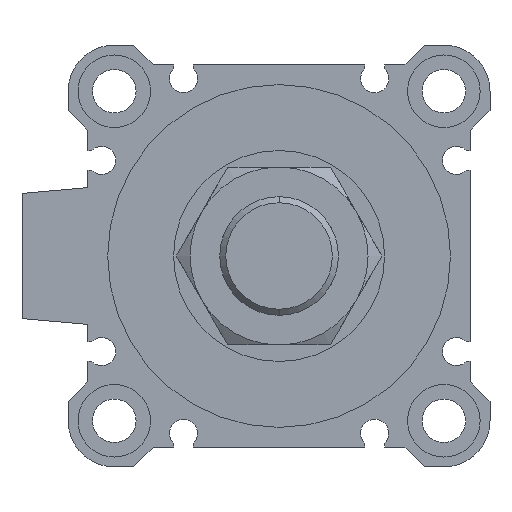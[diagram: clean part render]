
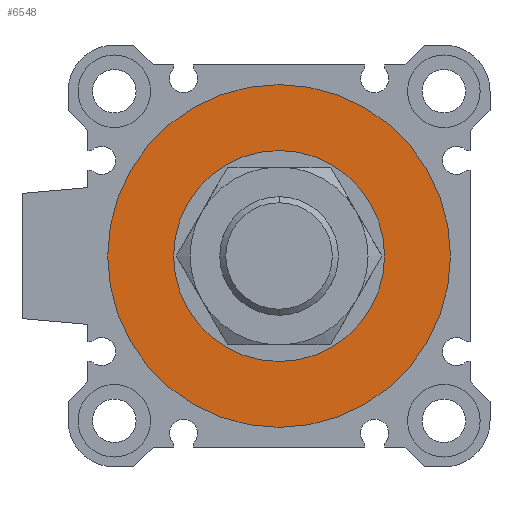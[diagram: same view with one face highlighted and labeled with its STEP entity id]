
A CAD part, left-side view. The second image highlights one B-rep face of the part: STEP entity #6548.
In plain terms, the highlighted planar face has unit normal (-1, 0, 0).
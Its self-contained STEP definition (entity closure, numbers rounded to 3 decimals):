
#84 = EDGE_CURVE ( 'NONE', #1300, #1539, #611, .T. ) ;
#196 = CIRCLE ( 'NONE', #6684, 26. ) ;
#307 = CARTESIAN_POINT ( 'NONE',  ( 3., 0., 0. ) ) ;
#574 = EDGE_LOOP ( 'NONE', ( #6380, #2492 ) ) ;
#611 = CIRCLE ( 'NONE', #3262, 16. ) ;
#751 = PLANE ( 'NONE',  #4105 ) ;
#1151 = ORIENTED_EDGE ( 'NONE', *, *, #6797, .F. ) ;
#1278 = DIRECTION ( 'NONE',  ( 0., 0., -1. ) ) ;
#1300 = VERTEX_POINT ( 'NONE', #4862 ) ;
#1359 = CARTESIAN_POINT ( 'NONE',  ( 3., 0., 0. ) ) ;
#1539 = VERTEX_POINT ( 'NONE', #1821 ) ;
#1614 = VERTEX_POINT ( 'NONE', #4171 ) ;
#1751 = DIRECTION ( 'NONE',  ( 1., 0., 0. ) ) ;
#1821 = CARTESIAN_POINT ( 'NONE',  ( 3., 0., 16. ) ) ;
#1876 = DIRECTION ( 'NONE',  ( 1., 0., 0. ) ) ;
#2492 = ORIENTED_EDGE ( 'NONE', *, *, #84, .T. ) ;
#2846 = ORIENTED_EDGE ( 'NONE', *, *, #5282, .F. ) ;
#3262 = AXIS2_PLACEMENT_3D ( 'NONE', #1359, #5818, #3563 ) ;
#3542 = DIRECTION ( 'NONE',  ( 0., 1., 0. ) ) ;
#3563 = DIRECTION ( 'NONE',  ( 0., 0., -1. ) ) ;
#3693 = CARTESIAN_POINT ( 'NONE',  ( 3., 0., 26. ) ) ;
#3816 = CARTESIAN_POINT ( 'NONE',  ( 3., 0., 0. ) ) ;
#4000 = VERTEX_POINT ( 'NONE', #3693 ) ;
#4094 = DIRECTION ( 'NONE',  ( 0., 0., -1. ) ) ;
#4105 = AXIS2_PLACEMENT_3D ( 'NONE', #4156, #1876, #3542 ) ;
#4156 = CARTESIAN_POINT ( 'NONE',  ( 3., 0., 0. ) ) ;
#4171 = CARTESIAN_POINT ( 'NONE',  ( 3., 0., -26. ) ) ;
#4661 = FACE_OUTER_BOUND ( 'NONE', #5674, .T. ) ;
#4862 = CARTESIAN_POINT ( 'NONE',  ( 3., 0., -16. ) ) ;
#5194 = EDGE_CURVE ( 'NONE', #1539, #1300, #6155, .T. ) ;
#5282 = EDGE_CURVE ( 'NONE', #1614, #4000, #5440, .T. ) ;
#5440 = CIRCLE ( 'NONE', #6376, 26. ) ;
#5570 = DIRECTION ( 'NONE',  ( 0., 0., -1. ) ) ;
#5674 = EDGE_LOOP ( 'NONE', ( #1151, #2846 ) ) ;
#5718 = FACE_BOUND ( 'NONE', #574, .T. ) ;
#5818 = DIRECTION ( 'NONE',  ( 1., 0., 0. ) ) ;
#5913 = DIRECTION ( 'NONE',  ( 1., 0., 0. ) ) ;
#6039 = DIRECTION ( 'NONE',  ( 1., 0., 0. ) ) ;
#6155 = CIRCLE ( 'NONE', #7087, 16. ) ;
#6277 = CARTESIAN_POINT ( 'NONE',  ( 3., 0., 0. ) ) ;
#6376 = AXIS2_PLACEMENT_3D ( 'NONE', #307, #5913, #4094 ) ;
#6380 = ORIENTED_EDGE ( 'NONE', *, *, #5194, .T. ) ;
#6548 = ADVANCED_FACE ( 'NONE', ( #4661, #5718 ), #751, .F. ) ;
#6684 = AXIS2_PLACEMENT_3D ( 'NONE', #3816, #6039, #5570 ) ;
#6797 = EDGE_CURVE ( 'NONE', #4000, #1614, #196, .T. ) ;
#7087 = AXIS2_PLACEMENT_3D ( 'NONE', #6277, #1751, #1278 ) ;
